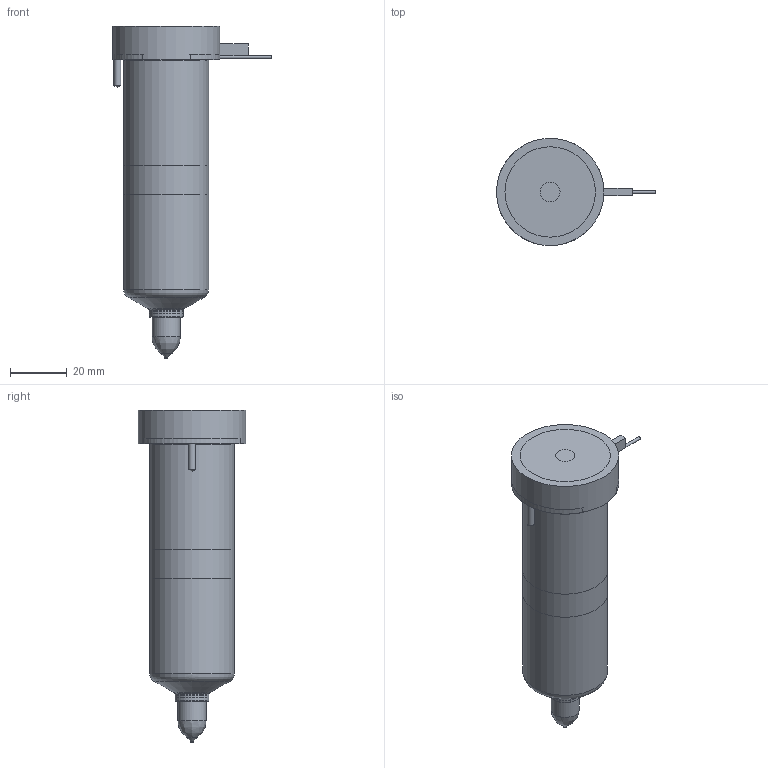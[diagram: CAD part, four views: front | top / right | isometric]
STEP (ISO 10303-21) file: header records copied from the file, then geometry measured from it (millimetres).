
FILE_DESCRIPTION(/* description */ (''),/* implementation_level */ '2;1');
FILE_NAME(/* name */ 'BXTT-BXIT16095-10_200C_b',/* time_stamp */ '2007-01-18T10:00:06+13:00',/* author */ (''),/* organization */ (''),/* preprocessor_version */ 'ST-DEVELOPER v9',/* originating_system */ 'UGS - NX 4.0',/* authorisation */ '');
FILE_SCHEMA (('CONFIG_CONTROL_DESIGN'));
Length unit declared in the file: millimetre
Products named in the file (1): BXTT-BXIT16095-10_200C_b
Bounding box: 56.25 x 38 x 117.48 mm (x, y, z)
Volume: 138269 mm3; surface area: 26410.8 mm2
Topology: 6 solids, 6 shells, 82 faces, 162 edges, 102 vertices
Faces by surface type: plane 35, cylinder 25, cone 12, torus 8, bspline 2
Full cylindrical faces by diameter (mm): 1 x4, 2.5 x2, 6.5 x1, 7 x1, 10 x1, 11.61 x1, 12.01 x2, 14.8 x1, 25.4 x1, 30 x2, 38 x1
Entity records: 2035 total; most frequent: CARTESIAN_POINT 419, DIRECTION 340, ORIENTED_EDGE 236, AXIS2_PLACEMENT_3D 151, EDGE_LOOP 128, EDGE_CURVE 118, VERTEX_POINT 95, ADVANCED_FACE 82
